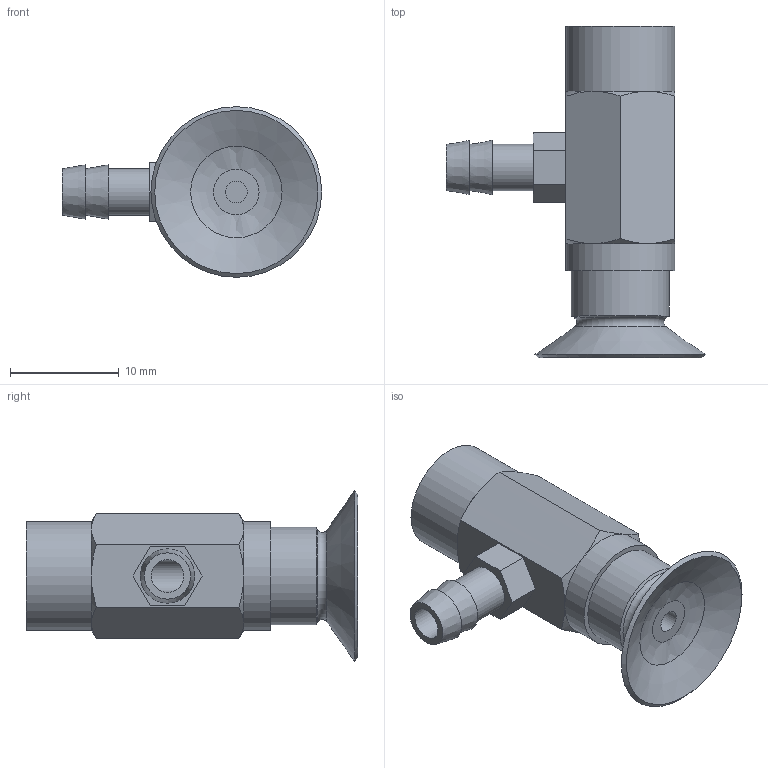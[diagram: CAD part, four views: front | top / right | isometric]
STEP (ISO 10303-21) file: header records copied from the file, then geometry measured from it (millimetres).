
FILE_DESCRIPTION(('STEP AP203'),'1');
FILE_NAME('.stp','2025-04-07T02:14:10',(' '),(' '),'Spatial InterOp 3D',' ',' ');
FILE_SCHEMA(('CONFIG_CONTROL_DESIGN'));
Length unit declared in the file: millimetre
Products named in the file (3): BBPFYK-15A-※; PFYK-10A; BPFG-15A-※
Assembly tree (2 placements, depth 2):
  BBPFYK-15A-※
    PFYK-10A
    BPFG-15A-※
Bounding box: 23.85 x 30.5 x 15.7 mm (x, y, z)
Volume: 2260.2 mm3; surface area: 2255.4 mm2
Topology: 2 solids, 2 shells, 73 faces, 154 edges, 94 vertices
Faces by surface type: plane 28, cone 21, cylinder 14, torus 9, bspline 1
Full cylindrical faces by diameter (mm): 2 x1, 3 x2, 3.242 x1, 4 x2, 4.26 x1, 5 x1, 6 x2, 9 x1, 10 x2
Entity records: 2065 total; most frequent: CARTESIAN_POINT 567, DIRECTION 288, ORIENTED_EDGE 220, AXIS2_PLACEMENT_3D 131, EDGE_LOOP 117, EDGE_CURVE 110, FACE_OUTER_BOUND 95, VERTEX_POINT 84
